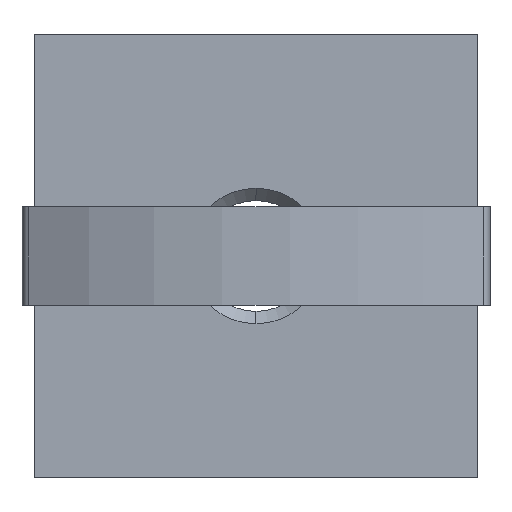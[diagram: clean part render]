
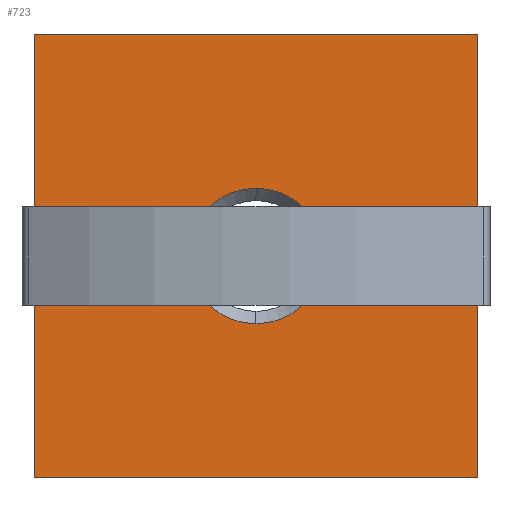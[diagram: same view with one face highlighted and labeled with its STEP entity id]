
A CAD part, front view. The second image highlights one B-rep face of the part: STEP entity #723.
In plain terms, the highlighted planar face has unit normal (0, -1, 0).
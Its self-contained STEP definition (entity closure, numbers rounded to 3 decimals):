
#19 = CARTESIAN_POINT ( 'NONE',  ( -9., -2., -9. ) ) ;
#39 = CARTESIAN_POINT ( 'NONE',  ( 9., -2., -9. ) ) ;
#46 = CIRCLE ( 'NONE', #799, 2.75 ) ;
#55 = CARTESIAN_POINT ( 'NONE',  ( 0., -2., 0. ) ) ;
#58 = CARTESIAN_POINT ( 'NONE',  ( -9., -2., -9. ) ) ;
#67 = ORIENTED_EDGE ( 'NONE', *, *, #207, .F. ) ;
#76 = DIRECTION ( 'NONE',  ( 0., 0., 1. ) ) ;
#114 = ORIENTED_EDGE ( 'NONE', *, *, #273, .F. ) ;
#128 = DIRECTION ( 'NONE',  ( 0., 0., 1. ) ) ;
#130 = EDGE_LOOP ( 'NONE', ( #509, #651 ) ) ;
#137 = CARTESIAN_POINT ( 'NONE',  ( 9., -2., -9. ) ) ;
#140 = ORIENTED_EDGE ( 'NONE', *, *, #640, .F. ) ;
#174 = LINE ( 'NONE', #39, #264 ) ;
#199 = EDGE_CURVE ( 'NONE', #362, #893, #599, .T. ) ;
#207 = EDGE_CURVE ( 'NONE', #508, #559, #585, .T. ) ;
#208 = CARTESIAN_POINT ( 'NONE',  ( -9., -2., 9. ) ) ;
#215 = CARTESIAN_POINT ( 'NONE',  ( 9., -2., 9. ) ) ;
#264 = VECTOR ( 'NONE', #730, 1000. ) ;
#273 = EDGE_CURVE ( 'NONE', #559, #661, #174, .T. ) ;
#288 = CARTESIAN_POINT ( 'NONE',  ( 0., -2., 0. ) ) ;
#362 = VERTEX_POINT ( 'NONE', #602 ) ;
#374 = CARTESIAN_POINT ( 'NONE',  ( 0., -2., 0. ) ) ;
#382 = VECTOR ( 'NONE', #614, 1000. ) ;
#385 = CARTESIAN_POINT ( 'NONE',  ( 0., -2., -2.75 ) ) ;
#416 = VECTOR ( 'NONE', #866, 1000. ) ;
#427 = AXIS2_PLACEMENT_3D ( 'NONE', #374, #842, #533 ) ;
#508 = VERTEX_POINT ( 'NONE', #828 ) ;
#509 = ORIENTED_EDGE ( 'NONE', *, *, #781, .T. ) ;
#533 = DIRECTION ( 'NONE',  ( 0., 0., 1. ) ) ;
#559 = VERTEX_POINT ( 'NONE', #215 ) ;
#571 = DIRECTION ( 'NONE',  ( 0., 1., 0. ) ) ;
#585 = LINE ( 'NONE', #208, #382 ) ;
#599 = CIRCLE ( 'NONE', #770, 2.75 ) ;
#602 = CARTESIAN_POINT ( 'NONE',  ( 0., -2., 2.75 ) ) ;
#603 = ORIENTED_EDGE ( 'NONE', *, *, #745, .F. ) ;
#604 = LINE ( 'NONE', #58, #416 ) ;
#607 = VECTOR ( 'NONE', #654, 1000. ) ;
#614 = DIRECTION ( 'NONE',  ( 1., 0., 0. ) ) ;
#640 = EDGE_CURVE ( 'NONE', #661, #886, #604, .T. ) ;
#651 = ORIENTED_EDGE ( 'NONE', *, *, #199, .T. ) ;
#654 = DIRECTION ( 'NONE',  ( 0., 0., 1. ) ) ;
#661 = VERTEX_POINT ( 'NONE', #137 ) ;
#723 = ADVANCED_FACE ( 'NONE', ( #727, #859 ), #829, .F. ) ;
#727 = FACE_BOUND ( 'NONE', #130, .T. ) ;
#730 = DIRECTION ( 'NONE',  ( 0., 0., -1. ) ) ;
#745 = EDGE_CURVE ( 'NONE', #886, #508, #765, .T. ) ;
#747 = DIRECTION ( 'NONE',  ( 0., 1., 0. ) ) ;
#765 = LINE ( 'NONE', #865, #607 ) ;
#770 = AXIS2_PLACEMENT_3D ( 'NONE', #288, #747, #128 ) ;
#773 = EDGE_LOOP ( 'NONE', ( #603, #140, #114, #67 ) ) ;
#781 = EDGE_CURVE ( 'NONE', #893, #362, #46, .T. ) ;
#799 = AXIS2_PLACEMENT_3D ( 'NONE', #55, #571, #76 ) ;
#828 = CARTESIAN_POINT ( 'NONE',  ( -9., -2., 9. ) ) ;
#829 = PLANE ( 'NONE',  #427 ) ;
#842 = DIRECTION ( 'NONE',  ( 0., 1., 0. ) ) ;
#859 = FACE_OUTER_BOUND ( 'NONE', #773, .T. ) ;
#865 = CARTESIAN_POINT ( 'NONE',  ( -9., -2., -9. ) ) ;
#866 = DIRECTION ( 'NONE',  ( -1., 0., 0. ) ) ;
#886 = VERTEX_POINT ( 'NONE', #19 ) ;
#893 = VERTEX_POINT ( 'NONE', #385 ) ;
